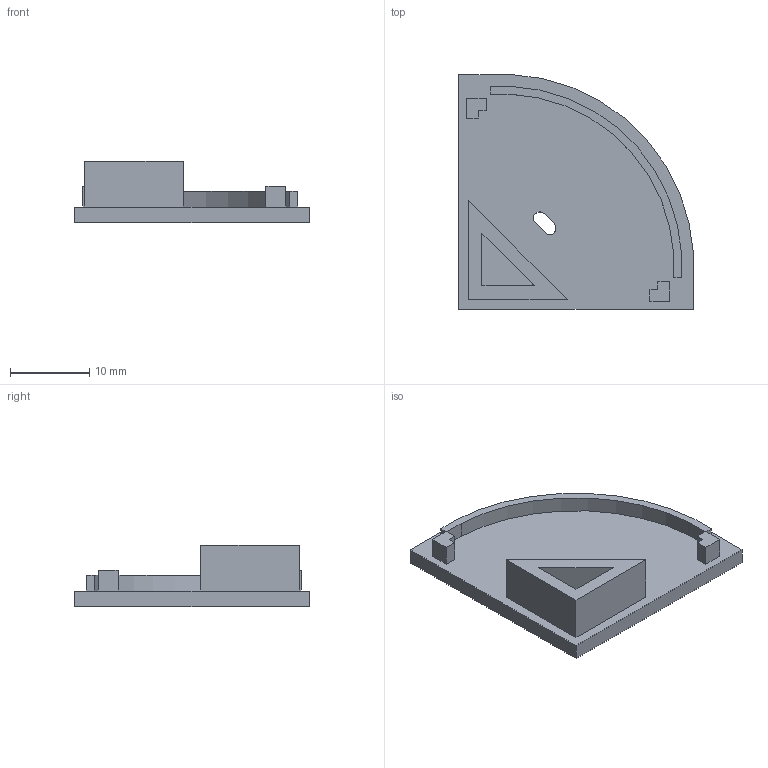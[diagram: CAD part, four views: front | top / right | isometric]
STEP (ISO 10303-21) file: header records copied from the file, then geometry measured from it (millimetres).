
FILE_DESCRIPTION (( 'STEP AP214' ), '1' );
FILE_NAME ('Corner Endcap Open.STEP', '2026-04-20T12:58:16', ( '' ), ( '' ), 'SwSTEP 2.0', 'SolidWorks 2025', '' );
FILE_SCHEMA (( 'AUTOMOTIVE_DESIGN' ));
Length unit declared in the file: millimetre
Products named in the file (1): Corner Endcap Open
Bounding box: 29.7 x 29.7 x 7.8 mm (x, y, z)
Volume: 1934.2 mm3; surface area: 2330.1 mm2
Topology: 1 solids, 1 shells, 42 faces, 105 edges, 70 vertices
Faces by surface type: plane 37, cylinder 5
Entity records: 1266 total; most frequent: CARTESIAN_POINT 218, ORIENTED_EDGE 210, DIRECTION 201, EDGE_CURVE 105, VECTOR 95, LINE 95, VERTEX_POINT 70, AXIS2_PLACEMENT_3D 53
